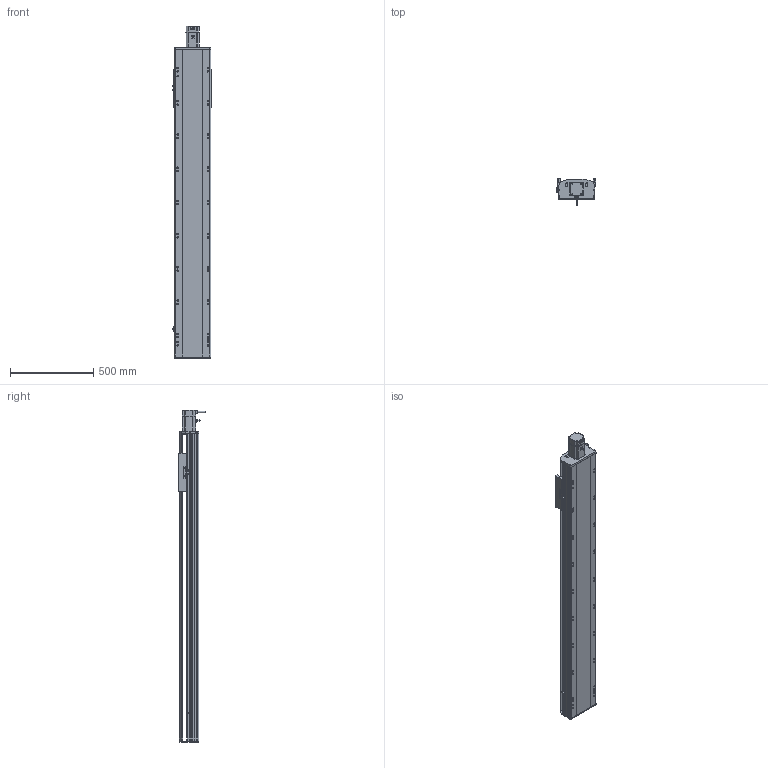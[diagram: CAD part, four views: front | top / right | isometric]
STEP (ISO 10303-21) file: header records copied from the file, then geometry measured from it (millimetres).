
FILE_DESCRIPTION (( 'STEP AP214' ), '1' );
FILE_NAME ('RTH22-XX-1450-E-M75-C4.STEP', '2025-10-24T10:50:03', ( 'Microsoft' ), ( 'Microsoft' ), 'SwSTEP 2.0', 'SolidWorks 2018', '' );
FILE_SCHEMA (( 'AUTOMOTIVE_DESIGN' ));
Length unit declared in the file: millimetre
Products named in the file (9): N_RTH22-GY-013外置感应片^RTH22-XX-XX-E-M75-C4; N_OMRON EE-SX672 传感器^RTH22-XX-XX-E-M75-C4; N_750W萇儂^RTH22-XX-XX-E-M75-C4; N_RTH22-E-011菁釱^RTH22-XX-XX-E-M75-C4; N_RTH22-E-007奻裔^RTH22-XX-XX-E-M75-C4; N_RTH22-E-004-SFS25賑釱^RTH22-XX-XX-E-M75-C4; N_RTH22-GY-001耜裔^RTH22-XX-XX-E-M75-C4; N_RTH22-E-008萇儂啣^RTH22-XX-XX-E-M75-C4; RTH22-XX-1450-E-M75-C4
Assembly tree (10 placements, depth 2):
  RTH22-XX-1450-E-M75-C4
    N_RTH22-E-011菁釱^RTH22-XX-XX-E-M75-C4
    N_RTH22-GY-001耜裔^RTH22-XX-XX-E-M75-C4
    N_RTH22-E-008萇儂啣^RTH22-XX-XX-E-M75-C4
    N_RTH22-E-007奻裔^RTH22-XX-XX-E-M75-C4
    N_RTH22-GY-013外置感应片^RTH22-XX-XX-E-M75-C4
    N_RTH22-E-004-SFS25賑釱^RTH22-XX-XX-E-M75-C4
    N_750W萇儂^RTH22-XX-XX-E-M75-C4
    N_OMRON EE-SX672 传感器^RTH22-XX-XX-E-M75-C4  x3
Bounding box: 238.5 x 160.7 x 1999 mm (x, y, z)
Volume: 24686823.1 mm3; surface area: 2530236.6 mm2
Topology: 10 solids, 10 shells, 1595 faces, 4374 edges, 2819 vertices
Faces by surface type: plane 762, cylinder 484, bspline 279, cone 70
Entity records: 40633 total; most frequent: CARTESIAN_POINT 12617, ORIENTED_EDGE 5700, DIRECTION 5416, EDGE_CURVE 2850, VERTEX_POINT 1855, AXIS2_PLACEMENT_3D 1850, VECTOR 1716, LINE 1716
